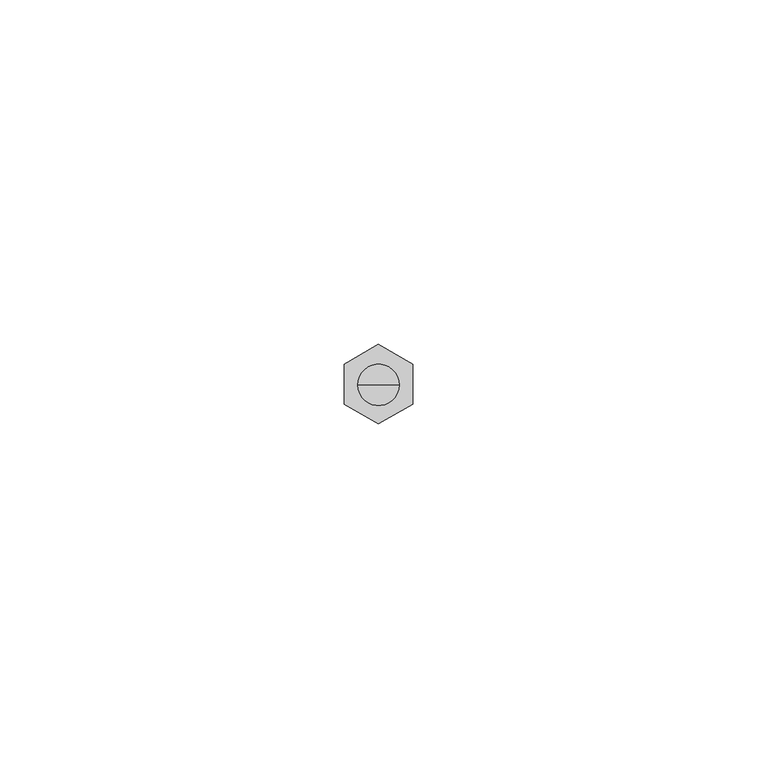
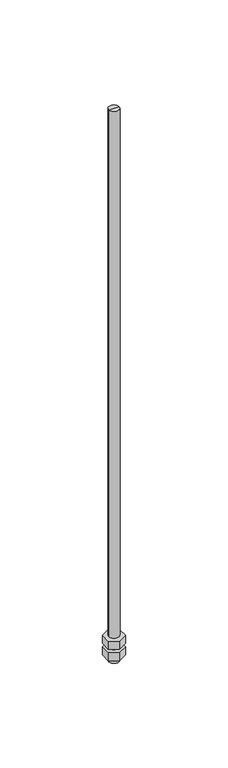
"""IFC4 building model written with IfcOpenShell, lengths in millimetres: proxy geometry, durlum_threaded_rod_M6 : durlum_threaded_rod_M6."""

import ifcopenshell
import ifcopenshell.guid

model = None  # the IFC model being written
_history = None  # IfcOwnerHistory: only IFC2X3 demands one
_inside = {}  # id of a spatial element -> (the spatial element, [elements in it])
_under = {}  # id of a project, library or spatial element -> (it, [spatial elements below it])
_declared = {}  # id of a project -> (the project, [libraries it declares])
_typed = {}  # id of a type object -> (the type object, [elements of that type])
_made_of = {}  # id of a material, layer set ... -> (it, [elements and type objects made of it])


def new_model(schema):
    """Start an empty IFC model of exactly this schema.

    Asked for "IFC4X3", IfcOpenShell would pick the latest addendum, in which some entities
    have other attributes; the version numbers below select the first issue.
    IFC2X3 requires an IfcOwnerHistory on every rooted entity: one is made here for all.
    """
    global model, _history
    if schema == "IFC4X3":
        model = ifcopenshell.file(schema_version=(4, 3, 0, 0))
    else:
        model = ifcopenshell.file(schema=schema)
    _inside.clear()
    _under.clear()
    _declared.clear()
    _typed.clear()
    _made_of.clear()
    _history = None
    if model.schema == "IFC2X3":
        org = make("IfcOrganization", Name="unknown")
        user = make(
            "IfcPersonAndOrganization",
            ThePerson=make("IfcPerson", FamilyName="unknown"),
            TheOrganization=org,
        )
        app = make(
            "IfcApplication",
            ApplicationDeveloper=org,
            Version="unknown",
            ApplicationFullName="unknown",
            ApplicationIdentifier="unknown",
        )
        _history = make(
            "IfcOwnerHistory",
            OwningUser=user,
            OwningApplication=app,
            ChangeAction="ADDED",
            CreationDate=0,
        )
    return model


def make(cls, **values):
    """One entity of the class cls with the attributes given. An attribute that is None is left unset."""
    return model.create_entity(
        cls, **{name: value for name, value in values.items() if value is not None}
    )


def rooted(cls, **values):
    """An entity with a GlobalId (a new one), such as an element, a storey or a relation."""
    return make(cls, GlobalId=ifcopenshell.guid.new(), OwnerHistory=_history, **values)


def si_unit(unit_type, name, prefix=None):
    """IfcSIUnit, for example si_unit("LENGTHUNIT", "METRE", prefix="MILLI")."""
    return make("IfcSIUnit", UnitType=unit_type, Prefix=prefix, Name=name)


def assignment(units):
    """IfcUnitAssignment: the units of a project."""
    return None if units is None else make("IfcUnitAssignment", Units=units)


def point(xyz):
    """IfcCartesianPoint."""
    return None if xyz is None else make("IfcCartesianPoint", Coordinates=xyz)


def direction(xyz):
    """IfcDirection."""
    return None if xyz is None else make("IfcDirection", DirectionRatios=xyz)


def frame(location, z_axis=None, x_axis=None):
    """IfcAxis2Placement3D, a coordinate frame: its origin and axes. An axis left out is left unset."""
    return make(
        "IfcAxis2Placement3D",
        Location=point(location),
        Axis=direction(z_axis),
        RefDirection=direction(x_axis),
    )


def origin():
    """The frame at (0, 0, 0) with its axes left unset."""
    return frame((0.0, 0.0, 0.0))


def origin_with_axes():
    """The frame at (0, 0, 0) with the z axis (0, 0, 1) and the x axis (1, 0, 0) written out."""
    return frame((0.0, 0.0, 0.0), z_axis=(0.0, 0.0, 1.0), x_axis=(1.0, 0.0, 0.0))


def place(relative_to, where):
    """IfcLocalPlacement: puts the frame where relative to a parent placement (None: the world)."""
    return make(
        "IfcLocalPlacement", PlacementRelTo=relative_to, RelativePlacement=where
    )


def context(
    kind, dimensions, precision=None, world=None, true_north=None, identifier=None
):
    """IfcGeometricRepresentationContext, for example the 3D "Model" context."""
    return make(
        "IfcGeometricRepresentationContext",
        ContextIdentifier=identifier,
        ContextType=kind,
        CoordinateSpaceDimension=dimensions,
        Precision=precision,
        WorldCoordinateSystem=world,
        TrueNorth=true_north,
    )


def project(units=None, contexts=None):
    """IfcProject with its units and contexts."""
    return rooted(
        "IfcProject",
        Name="project",
        RepresentationContexts=contexts,
        UnitsInContext=assignment(units),
    )


def spatial(cls, under=None, at=None, **own):
    """A site, building, storey or space (cls), placed at a placement, below another one or the project."""
    s = rooted(cls, ObjectPlacement=at, **own)
    if under is not None:
        _under.setdefault(under.id(), (under, []))[1].append(s)
    return s


def polyline(points):
    """IfcPolyline through the points."""
    return make("IfcPolyline", Points=[point(p) for p in points])


def circle_curve(where, radius):
    """IfcCircle in the frame where."""
    return make("IfcCircle", Position=where, Radius=radius)


def outline(outer, holes=None, kind="AREA"):
    """IfcArbitraryClosedProfileDef: a profile drawn as a closed curve; with holes, ...WithVoids."""
    if holes is None:
        return make("IfcArbitraryClosedProfileDef", ProfileType=kind, OuterCurve=outer)
    return make(
        "IfcArbitraryProfileDefWithVoids",
        ProfileType=kind,
        OuterCurve=outer,
        InnerCurves=holes,
    )


def extrude(swept, where, along, depth):
    """IfcExtrudedAreaSolid: the profile swept, set in the frame where, extruded along a direction by depth."""
    return make(
        "IfcExtrudedAreaSolid",
        SweptArea=swept,
        Position=where,
        ExtrudedDirection=direction(along),
        Depth=depth,
    )


def shape(context_of_items, identifier, shape_type, items):
    """IfcShapeRepresentation: the items that make up one representation, for example the "Body"."""
    return make(
        "IfcShapeRepresentation",
        ContextOfItems=context_of_items,
        RepresentationIdentifier=identifier,
        RepresentationType=shape_type,
        Items=items,
    )


def source(mapping_origin, context_of_items, identifier, shape_type, items):
    """IfcRepresentationMap: a shape defined once, which mapped items show again and again."""
    return make(
        "IfcRepresentationMap",
        MappingOrigin=mapping_origin,
        MappedRepresentation=shape(context_of_items, identifier, shape_type, items),
    )


def transform(
    local_origin,
    x_axis=None,
    y_axis=None,
    z_axis=None,
    scale=None,
    scale2=None,
    scale3=None,
    uniform=True,
):
    """IfcCartesianTransformationOperator3D, or its non-uniform kind. x_axis, y_axis, z_axis: its Axis1, 2, 3."""
    if uniform:
        return make(
            "IfcCartesianTransformationOperator3D",
            Axis1=direction(x_axis),
            Axis2=direction(y_axis),
            LocalOrigin=point(local_origin),
            Scale=scale,
            Axis3=direction(z_axis),
        )
    return make(
        "IfcCartesianTransformationOperator3DnonUniform",
        Axis1=direction(x_axis),
        Axis2=direction(y_axis),
        LocalOrigin=point(local_origin),
        Scale=scale,
        Axis3=direction(z_axis),
        Scale2=scale2,
        Scale3=scale3,
    )


def mapped(mapping_source, mapping_target):
    """IfcMappedItem: shows the shape of a source again, moved by a transform."""
    return make(
        "IfcMappedItem", MappingSource=mapping_source, MappingTarget=mapping_target
    )


def made_of(thing, what):
    """Note that an element or type object is made of a material, layer set ...; save() writes the relation."""
    if what is not None:
        _made_of.setdefault(what.id(), (what, []))[1].append(thing)
    return thing


def element(
    cls,
    number,
    at=None,
    inside=None,
    cuts=None,
    type_object=None,
    material=None,
    context=None,
    identifier="Body",
    shape_type=None,
    held_by="IfcProductDefinitionShape",
    body=None,
    shapes=None,
    **own,
):
    """One element of the class cls, such as IfcWall. Its Tag is "e" and its number.

    at: its placement. inside: the storey or other place that contains it. cuts: it is an
    opening in that element (IfcRelVoidsElement). A single representation is given by context,
    identifier, shape_type and body (its items); several are given by shapes. held_by: the class
    of the entity that holds the representations. save() writes the other relations.
    """
    e = rooted(cls, Tag="e%d" % number, ObjectPlacement=at, **own)
    if body is not None:
        shapes = [shape(context, identifier, shape_type, body)]
    if shapes is not None:
        e.Representation = make(held_by, Representations=shapes)
    if inside is not None:
        _inside.setdefault(inside.id(), (inside, []))[1].append(e)
    if cuts is not None:
        rooted(
            "IfcRelVoidsElement", RelatingBuildingElement=cuts, RelatedOpeningElement=e
        )
    if type_object is not None:
        _typed.setdefault(type_object.id(), (type_object, []))[1].append(e)
    return made_of(e, material)


def aggregate(whole, parts):
    """IfcRelAggregates: a whole, such as a stair, and the parts it consists of."""
    return rooted("IfcRelAggregates", RelatingObject=whole, RelatedObjects=parts)


def save(model, path):
    """Write the relations noted so far, then the file.

    IfcRelAggregates (storeys below a building ...), IfcRelContainedInSpatialStructure (elements
    in a storey), IfcRelDefinesByType, IfcRelAssociatesMaterial and IfcRelDeclares: one each for
    every whole, place, type object, material and project.
    """
    for whole, parts in _under.values():
        aggregate(whole, parts)
    for where, things in _inside.values():
        rooted(
            "IfcRelContainedInSpatialStructure",
            RelatedElements=things,
            RelatingStructure=where,
        )
    for kind, things in _typed.values():
        rooted("IfcRelDefinesByType", RelatedObjects=things, RelatingType=kind)
    for what, things in _made_of.values():
        rooted("IfcRelAssociatesMaterial", RelatedObjects=things, RelatingMaterial=what)
    for by, libraries in _declared.values():
        rooted("IfcRelDeclares", RelatingContext=by, RelatedDefinitions=libraries)
    model.write(path)


def plane_surface(at):
    """IfcPlane: the flat surface through the origin of the frame at, square to its z axis."""
    return make("IfcPlane", Position=at)


def cylinder_surface(at, radius):
    """IfcCylindricalSurface: all points at the distance radius from the z axis of the frame at."""
    return make("IfcCylindricalSurface", Position=at, Radius=radius)


def advanced_brep(points, edges, surfaces, faces):
    """IfcAdvancedBrep: a solid bounded by faces that lie on surfaces and meet in shared edges.

    An edge is (start, end): straight between two places in points (the first is 0);
    or (start, end, curve); or (start, end, curve, False) where it runs against its curve.
    A face is (place in surfaces, loops), or (place, loops, False) where it looks against
    its surface's normal. A loop lists edges by number (the first is 1), with a minus sign
    where the edge is run from its end to its start. The first loop is the outer one.
    """
    corners = [point(p) for p in points]
    vertices = [make("IfcVertexPoint", VertexGeometry=c) for c in corners]
    made = []
    for start, end, *more in edges:
        made.append(
            make(
                "IfcEdgeCurve",
                EdgeStart=vertices[start],
                EdgeEnd=vertices[end],
                EdgeGeometry=more[0] if more else make("IfcPolyline", Points=[corners[start], corners[end]]),
                SameSense=more[1] if len(more) > 1 else True,
            )
        )
    hull = []
    for where, loops, *sense in faces:
        bounds = []
        for j, loop in enumerate(loops):
            ring = [make("IfcOrientedEdge", EdgeElement=made[abs(k) - 1], Orientation=k > 0) for k in loop]
            bounds.append(
                make(
                    "IfcFaceOuterBound" if j == 0 else "IfcFaceBound",
                    Bound=make("IfcEdgeLoop", EdgeList=ring),
                    Orientation=True,
                )
            )
        hull.append(make("IfcAdvancedFace", Bounds=bounds, FaceSurface=surfaces[where], SameSense=sense[0] if sense else True))
    return make("IfcAdvancedBrep", Outer=make("IfcClosedShell", CfsFaces=hull))


def generic_models_ee162b96(model_context):
    return source(origin(), model_context, "Body", "SolidModel", [
        extrude(outline(polyline([(5.0, 3.0421914), (5.0, -2.7313113), (0.0, -5.6180626), (-5.0, -2.7313113), (-5.0, 3.0421914), (0.0, 5.9289428), (5.0, 3.0421914)])), frame((0.0, 0.0, -7.0), z_axis=(0.0, 0.0, 1.0), x_axis=(1.0, 0.0, 0.0)), (0.0, 0.0, 1.0), 5.0),
        extrude(outline(polyline([(5.0, 3.0421914), (5.0, -2.7313113), (0.0, -5.6180626), (-5.0, -2.7313113), (-5.0, 3.0421914), (0.0, 5.9289428), (5.0, 3.0421914)])), origin_with_axes(), (0.0, 0.0, 1.0), 5.0),
        advanced_brep(
        [(-3.0, 0.0, 327.8986331), (3.0, 0.0, 327.8986331), (3.0, 0.0, -10.0), (-3.0, 0.0, -10.0), (0.0, 0.0, 327.8986331), (0.0, 0.0, -10.0)],
        [
            (0, 1, circle_curve(frame((0.0, 0.0, 327.8986331), z_axis=(0.0, 0.0, -1.0), x_axis=(1.0, 0.0, 0.0)), 3.0)),
            (1, 2),
            (2, 3, circle_curve(frame((0.0, 0.0, -10.0), z_axis=(0.0, 0.0, 1.0), x_axis=(1.0, 0.0, 0.0)), 3.0)),
            (3, 0),
            (1, 0, circle_curve(frame((0.0, 0.0, 327.8986331), z_axis=(0.0, 0.0, -1.0), x_axis=(1.0, 0.0, 0.0)), 3.0)),
            (3, 2, circle_curve(frame((0.0, 0.0, -10.0), z_axis=(0.0, 0.0, 1.0), x_axis=(1.0, 0.0, 0.0)), 3.0)),
            (4, 1),
            (0, 4),
            (2, 5),
            (5, 3),
        ],
        [
            cylinder_surface(frame((0.0, 0.0, -675.0), z_axis=(0.0, 0.0, 1.0), x_axis=(1.0, 0.0, 0.0)), 3.0),
            plane_surface(frame((0.0, 0.0, 327.8986331), z_axis=(0.0, 0.0, 1.0), x_axis=(1.0, 0.0, 0.0))),
            plane_surface(frame((0.0, 0.0, -10.0), z_axis=(0.0, 0.0, -1.0), x_axis=(1.0, 0.0, 0.0))),
        ],
        [
            (0, [[1, 2, 3, 4]]),
            (0, [[5, -4, 6, -2]]),
            (1, [[7, -1, 8]]),
            (1, [[-8, -5, -7]]),
            (2, [[-3, 9, 10]]),
            (2, [[-6, -10, -9]]),
        ],
    ),
    ])


if __name__ == "__main__":
    model = new_model("IFC4")
    model_context = context("Model", 3, world=origin())
    ifc_project = project(units=[si_unit("LENGTHUNIT", "METRE", prefix="MILLI")], contexts=[model_context])
    site = spatial("IfcSite", under=ifc_project)
    building = spatial("IfcBuilding", under=site)
    placement = place(None, origin())
    generic_models_shape = generic_models_ee162b96(model_context)
    element("IfcBuildingElementProxy", 1, Name="durlum_threaded_rod_M6 : durlum_threaded_rod_M6", ObjectType="durlum_threaded_rod_M6 : durlum_threaded_rod_M6", at=placement, inside=building, context=model_context, shape_type="MappedRepresentation", body=[
        mapped(generic_models_shape, transform((0.0, 0.0, 0.0), x_axis=(1.0, 0.0, 0.0), y_axis=(0.0, 1.0, 0.0), z_axis=(0.0, 0.0, 1.0))),
    ])
    save(model, "model.ifc")
